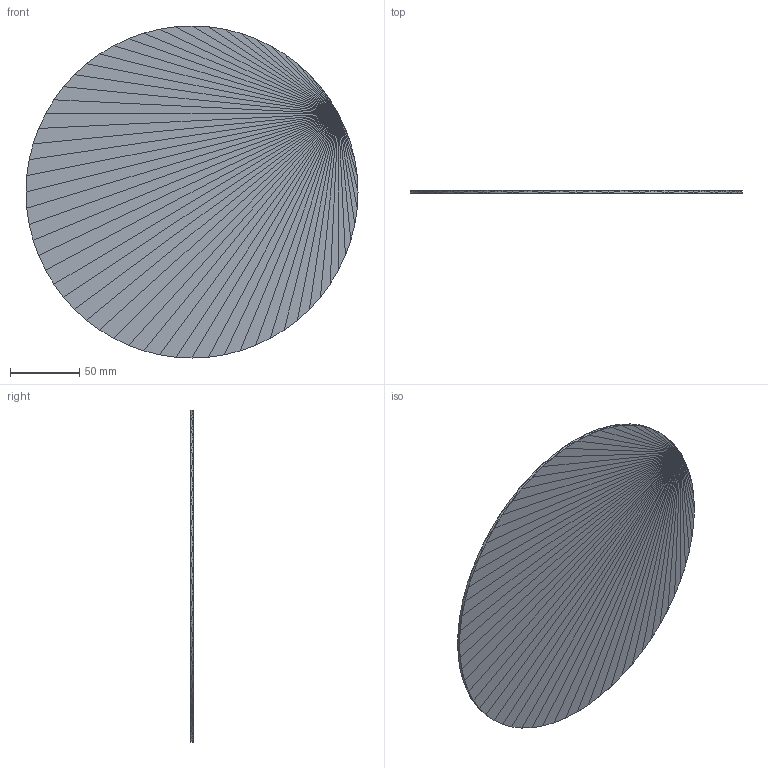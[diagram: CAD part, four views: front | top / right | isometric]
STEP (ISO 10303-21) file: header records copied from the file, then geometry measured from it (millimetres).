
FILE_DESCRIPTION(('Open CASCADE Model'),'2;1');
FILE_NAME('Open CASCADE Shape Model','2026-07-28T00:00:00+00:00',( 'Author'),('Open CASCADE'),'Open CASCADE STEP processor 7.8', 'build123d','Unknown');
FILE_SCHEMA(('AUTOMOTIVE_DESIGN { 1 0 10303 214 1 1 1 1 }'));
Length unit declared in the file: millimetre
Products named in the file (1): SOLID
Bounding box: 240 x 2 x 240 mm (x, y, z)
Volume: 90332.6 mm3; surface area: 91840 mm2
Topology: 1 solids, 1 shells, 252 faces, 378 edges, 128 vertices
Faces by surface type: plane 252
Entity records: 9472 total; most frequent: CARTESIAN_POINT 1893, DIRECTION 1262, ORIENTED_EDGE 756, LINE 756, VECTOR 756, PCURVE 756, DEFINITIONAL_REPRESENTATION 756, EDGE_CURVE 378
